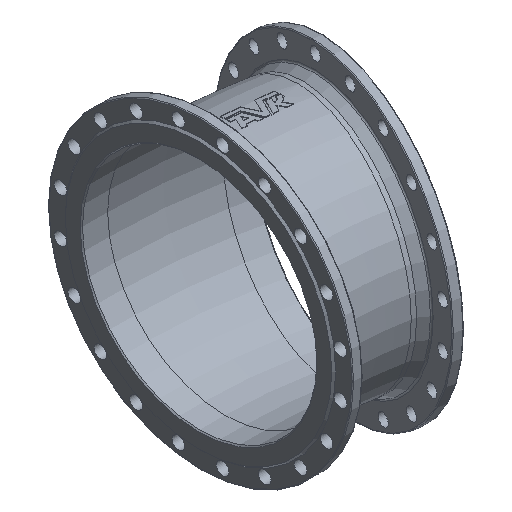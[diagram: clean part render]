
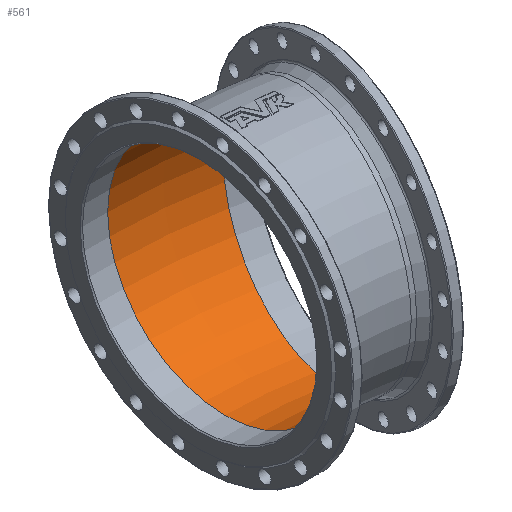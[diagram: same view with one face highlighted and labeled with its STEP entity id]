
A CAD part, isometric view. The second image highlights one B-rep face of the part: STEP entity #561.
In plain terms, the highlighted toroidal (fillet/blend) face has major radius 1081 mm and minor radius 300 mm.
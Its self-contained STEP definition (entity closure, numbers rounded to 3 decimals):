
#53 = ORIENTED_EDGE ( 'NONE', *, *, #2637, .T. ) ;
#338 = AXIS2_PLACEMENT_3D ( 'NONE', #2059, #2296, #1796 ) ;
#474 = ORIENTED_EDGE ( 'NONE', *, *, #2774, .F. ) ;
#561 = ADVANCED_FACE ( 'NONE', ( #2189, #1407 ), #2546, .F. ) ;
#607 = CIRCLE ( 'NONE', #3056, 300. ) ;
#838 = CARTESIAN_POINT ( 'NONE',  ( 45.896, -315.007, 0. ) ) ;
#1082 = CARTESIAN_POINT ( 'NONE',  ( -106.469, -300., 0. ) ) ;
#1208 = CIRCLE ( 'NONE', #338, 300. ) ;
#1407 = FACE_OUTER_BOUND ( 'NONE', #2853, .T. ) ;
#1412 = DIRECTION ( 'NONE',  ( -1., 0., 0. ) ) ;
#1603 = VERTEX_POINT ( 'NONE', #1082 ) ;
#1641 = CARTESIAN_POINT ( 'NONE',  ( -106.469, -1081., 0. ) ) ;
#1796 = DIRECTION ( 'NONE',  ( -0.195, -0.981, 0. ) ) ;
#2059 = CARTESIAN_POINT ( 'NONE',  ( 104.423, -20.771, 0. ) ) ;
#2099 = VERTEX_POINT ( 'NONE', #838 ) ;
#2189 = FACE_OUTER_BOUND ( 'NONE', #2887, .T. ) ;
#2220 = DIRECTION ( 'NONE',  ( -1., 0., 0. ) ) ;
#2296 = DIRECTION ( 'NONE',  ( -0.981, 0.195, 0. ) ) ;
#2432 = DIRECTION ( 'NONE',  ( 0., -1., 0. ) ) ;
#2546 = TOROIDAL_SURFACE ( 'NONE', #2934, 1081., 300. ) ;
#2637 = EDGE_CURVE ( 'NONE', #1603, #1603, #607, .T. ) ;
#2774 = EDGE_CURVE ( 'NONE', #2099, #2099, #1208, .T. ) ;
#2853 = EDGE_LOOP ( 'NONE', ( #53 ) ) ;
#2887 = EDGE_LOOP ( 'NONE', ( #474 ) ) ;
#2934 = AXIS2_PLACEMENT_3D ( 'NONE', #1641, #3246, #2220 ) ;
#3056 = AXIS2_PLACEMENT_3D ( 'NONE', #3168, #1412, #2432 ) ;
#3168 = CARTESIAN_POINT ( 'NONE',  ( -106.469, 0., 0. ) ) ;
#3246 = DIRECTION ( 'NONE',  ( 0., 0., -1. ) ) ;
